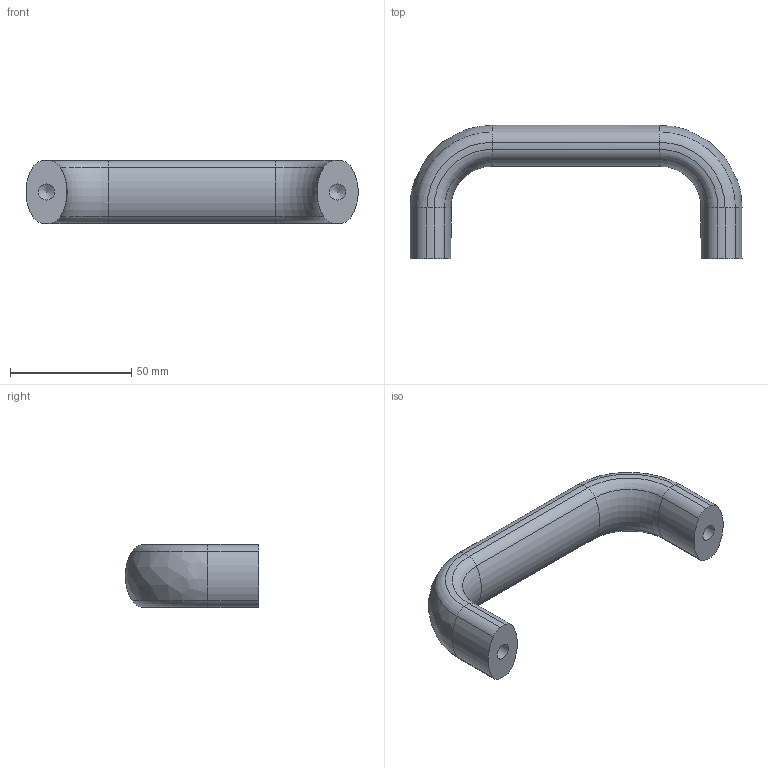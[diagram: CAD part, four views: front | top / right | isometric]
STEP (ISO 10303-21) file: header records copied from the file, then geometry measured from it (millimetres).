
FILE_DESCRIPTION( ( 'STEP AP203' ), '1' );
FILE_NAME( 'C:/Temp/Ganter_Step_05_03_2020/data/1_2/gn_565/Cabinet ''''U'''' handle GN 565-26-120-SWU.stp', '2020-03-05T10:08:55', ( 'License CC BY-ND 4.0' ), ( 'CADENAS' ), ' ', 'PARTsolutions', ' ' );
FILE_SCHEMA( ( 'CONFIG_CONTROL_DESIGN' ) );
Length unit declared in the file: millimetre
Products named in the file (1): _Cabinet ''U'' handle GN 565-26-120-SWU
Bounding box: 136.88 x 54.99 x 25.99 mm (x, y, z)
Volume: 67135.4 mm3; surface area: 14576.4 mm2
Topology: 1 solids, 1 shells, 52 faces, 130 edges, 80 vertices
Faces by surface type: cylinder 26, torus 14, plane 8, cone 2, bspline 2
Full cylindrical faces by diameter (mm): 6.647 x2
Entity records: 1648 total; most frequent: CARTESIAN_POINT 341, DIRECTION 302, ORIENTED_EDGE 248, AXIS2_PLACEMENT_3D 139, EDGE_CURVE 124, CIRCLE 88, VERTEX_POINT 80, EDGE_LOOP 56
